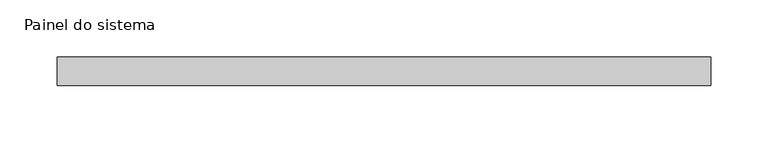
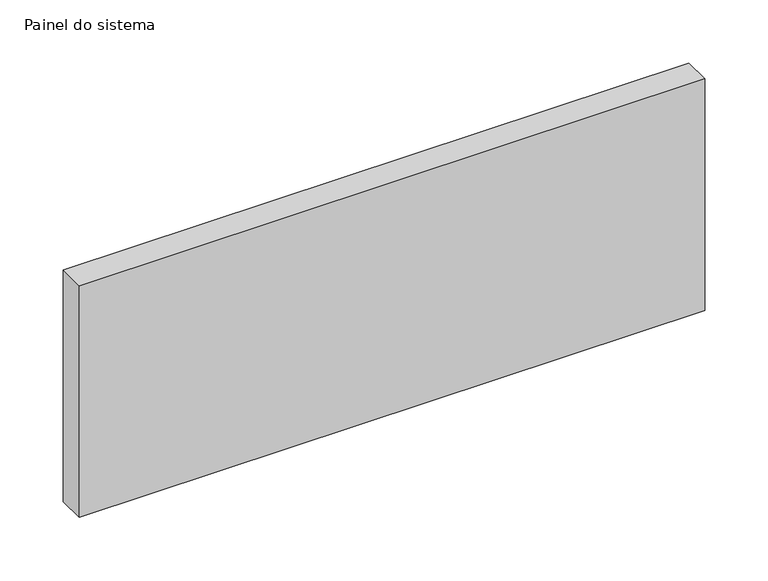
"""IFC4 building model written with IfcOpenShell, lengths in millimetres: plate geometry, Painel do sistema : Envidraçado."""

from ifc_helpers import new_model, si_unit, origin, origin_with_axes, place, context, project, spatial, polyline, outline, extrude, source, transform, mapped, element, save


def painel_do_sistema_7d2b1bb6(model_context):
    return source(origin(), model_context, "Body", "SweptSolid", [
        extrude(outline(polyline([(285.4166667, 24.5), (-285.4166667, 24.5), (-285.4166667, 49.5), (285.4166667, 49.5), (285.4166667, 24.5)])), origin_with_axes(), (0.0, 0.0, 1.0), 223.6217085),
    ])


if __name__ == "__main__":
    model = new_model("IFC4")
    model_context = context("Model", 3, world=origin())
    ifc_project = project(units=[si_unit("LENGTHUNIT", "METRE", prefix="MILLI")], contexts=[model_context])
    site = spatial("IfcSite", under=ifc_project)
    building = spatial("IfcBuilding", under=site)
    placement = place(None, origin())
    painel_do_sistema_shape = painel_do_sistema_7d2b1bb6(model_context)
    element("IfcPlate", 1, ObjectType="Painel do sistema : Envidraçado", at=placement, inside=building, context=model_context, shape_type="MappedRepresentation", body=[
        mapped(painel_do_sistema_shape, transform((0.0, 0.0, 0.0), x_axis=(1.0, 0.0, 0.0), y_axis=(0.0, 1.0, 0.0), z_axis=(0.0, 0.0, 1.0))),
    ])
    save(model, "model.ifc")
